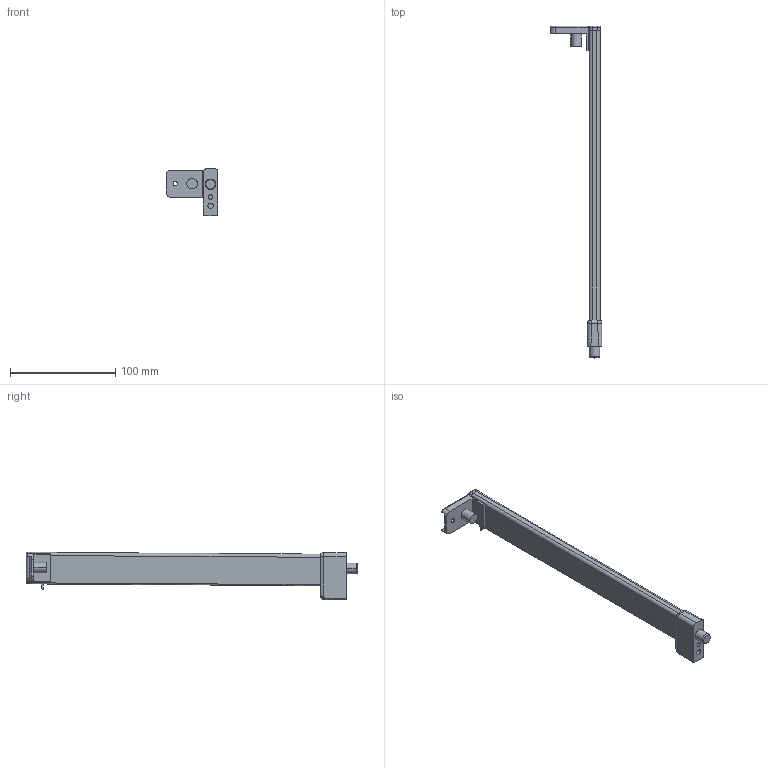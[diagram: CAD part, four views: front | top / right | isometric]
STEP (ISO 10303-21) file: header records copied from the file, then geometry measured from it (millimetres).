
FILE_DESCRIPTION (( 'STEP AP214' ), '1' );
FILE_NAME ('_2S_REL_7606_NL300_RE.step', '2010-07-01T14:41:31', ( 'grass' ), ( '' ), 'SwSTEP 2.0', 'SolidWorks 2009', '' );
FILE_SCHEMA (( 'AUTOMOTIVE_DESIGN' ));
Length unit declared in the file: millimetre
Products named in the file (1): _2S_REL_7606_NL300_RE
Bounding box: 49.25 x 315.5 x 45.4 mm (x, y, z)
Volume: 107452.7 mm3; surface area: 29811.6 mm2
Topology: 2 solids, 2 shells, 120 faces, 292 edges, 178 vertices
Faces by surface type: cylinder 58, plane 40, bspline 10, torus 6, cone 4, sphere 2
Entity records: 4659 total; most frequent: CARTESIAN_POINT 1934, ORIENTED_EDGE 580, DIRECTION 546, EDGE_CURVE 290, AXIS2_PLACEMENT_3D 203, VERTEX_POINT 178, LINE 140, VECTOR 140
